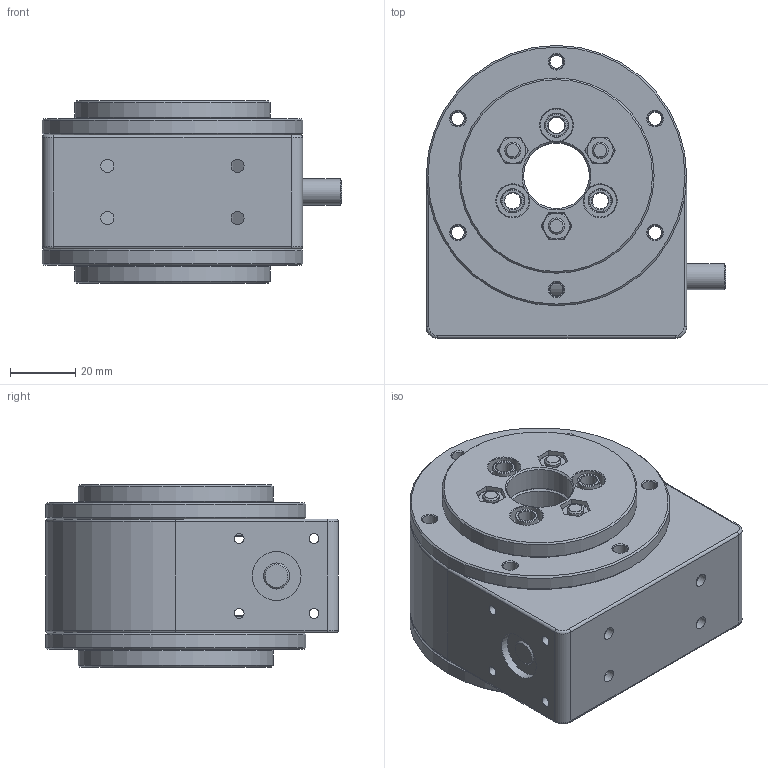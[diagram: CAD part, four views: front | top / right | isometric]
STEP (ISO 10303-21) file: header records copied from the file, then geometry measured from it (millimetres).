
FILE_DESCRIPTION((''),'2;1');
FILE_NAME('I:\Gleitlager\Konstruktion\robolink\Vorserie\RL-D\RL-D Gelenke\Simpel STEP 101\RL-D-20-101-38-Standard.stp','2015-05-19T11:03:48',('mraak'),(''),'Autodesk Inventor 2013','Autodesk Inventor 2013','');
FILE_SCHEMA(('AUTOMOTIVE_DESIGN { 1 0 10303 214 1 1 1 1 }'));
Length unit declared in the file: millimetre
Products named in the file (8): ___RL-D-20-101-38-00000; ___RL-D-20-0XXXX; ___RL-D-20-X0XXX; PRT-02-20-AL; 8; 7; 1; 4
Assembly tree (12 placements, depth 3):
  ___RL-D-20-101-38-00000
    ___RL-D-20-0XXXX
    ___RL-D-20-X0XXX
    PRT-02-20-AL  x2
      8
      7
      1
      4
Bounding box: 92 x 90 x 56 mm (x, y, z)
Volume: 142337.1 mm3; surface area: 86979.8 mm2
Topology: 18 solids, 18 shells, 705 faces, 1617 edges, 1008 vertices
Faces by surface type: plane 258, cone 254, cylinder 177, torus 16
Full cylindrical faces by diameter (mm): 2.5 x6, 3 x8, 4 x16, 4.2 x6, 4.5 x12, 5 x18, 7 x18, 8 x4, 8.5 x6, 10 x12, 15 x3, 20 x2, 20.2 x4, 39.99 x4, 40 x2, 60 x4, 62 x2, 80 x2
Entity records: 7750 total; most frequent: DIRECTION 1358, CARTESIAN_POINT 1301, ORIENTED_EDGE 998, AXIS2_PLACEMENT_3D 592, EDGE_LOOP 548, EDGE_CURVE 499, VERTEX_POINT 397, FACE_OUTER_BOUND 289
